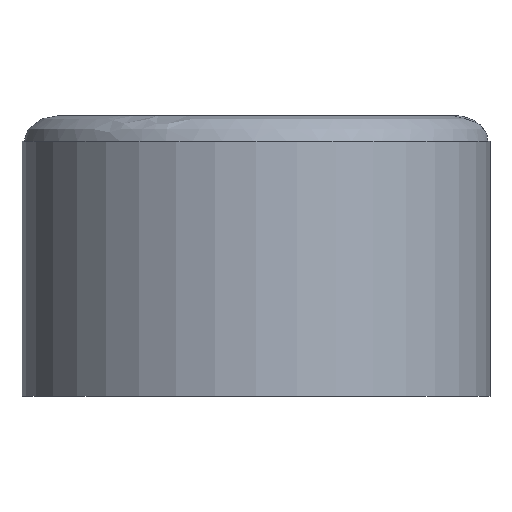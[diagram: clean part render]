
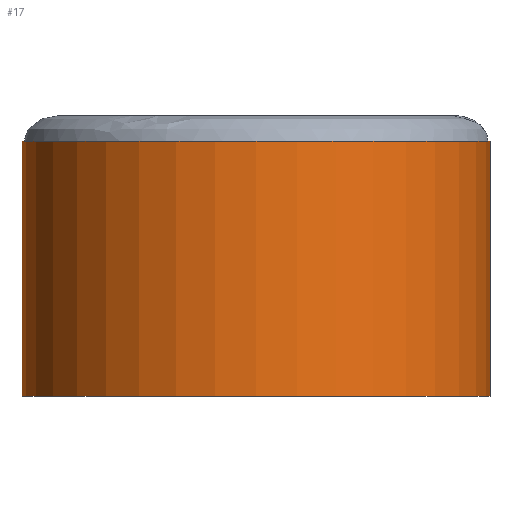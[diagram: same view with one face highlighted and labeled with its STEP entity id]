
A CAD part, front view. The second image highlights one B-rep face of the part: STEP entity #17.
In plain terms, the highlighted cylindrical face has radius 5.5 mm (diameter 11 mm), a full revolution.
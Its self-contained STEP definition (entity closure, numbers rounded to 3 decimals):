
#17 = ADVANCED_FACE('',(#18),#45,.T.);
#18 = FACE_BOUND('',#19,.T.);
#19 = EDGE_LOOP('',(#20,#29,#37,#44));
#20 = ORIENTED_EDGE('',*,*,#21,.F.);
#21 = EDGE_CURVE('',#22,#22,#24,.T.);
#22 = VERTEX_POINT('',#23);
#23 = CARTESIAN_POINT('',(5.5,0.,6.));
#24 = CIRCLE('',#25,5.5);
#25 = AXIS2_PLACEMENT_3D('',#26,#27,#28);
#26 = CARTESIAN_POINT('',(0.,0.,6.));
#27 = DIRECTION('',(0.,0.,1.));
#28 = DIRECTION('',(1.,0.,-0.));
#29 = ORIENTED_EDGE('',*,*,#30,.F.);
#30 = EDGE_CURVE('',#31,#22,#33,.T.);
#31 = VERTEX_POINT('',#32);
#32 = CARTESIAN_POINT('',(5.5,0.,0.));
#33 = LINE('',#34,#35);
#34 = CARTESIAN_POINT('',(5.5,0.,0.));
#35 = VECTOR('',#36,1.);
#36 = DIRECTION('',(0.,0.,1.));
#37 = ORIENTED_EDGE('',*,*,#38,.T.);
#38 = EDGE_CURVE('',#31,#31,#39,.T.);
#39 = CIRCLE('',#40,5.5);
#40 = AXIS2_PLACEMENT_3D('',#41,#42,#43);
#41 = CARTESIAN_POINT('',(0.,0.,0.));
#42 = DIRECTION('',(0.,0.,1.));
#43 = DIRECTION('',(1.,0.,-0.));
#44 = ORIENTED_EDGE('',*,*,#30,.T.);
#45 = CYLINDRICAL_SURFACE('',#46,5.5);
#46 = AXIS2_PLACEMENT_3D('',#47,#48,#49);
#47 = CARTESIAN_POINT('',(0.,0.,0.));
#48 = DIRECTION('',(0.,0.,1.));
#49 = DIRECTION('',(1.,0.,-0.));
